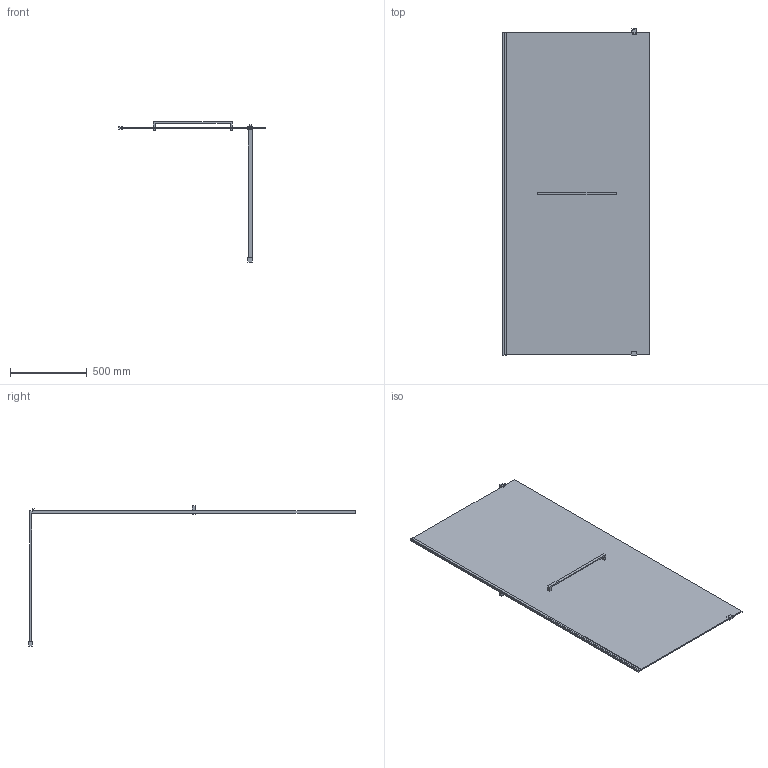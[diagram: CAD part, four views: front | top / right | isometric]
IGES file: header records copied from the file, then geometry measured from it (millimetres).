
Start section: SolidWorks IGES file using analytic representation for surfaces
Global section: file name: D:\Users\M.Szymanski\Desktop\Kabiny\PIII_ALTIIa\03. do przegrania\PIII_ALTIIa_100_z_relingiem_K3D.IGS; native system: SolidWorks 2011; preprocessor: SolidWorks 2011; author: M.Szymanski; date: 181005.104404; units: millimetre
Bounding box: 958.45 x 2128 x 914.13 mm (x, y, z)
Surface area: 4358230.1 mm2 (no closed solid volume)
Topology: 0 solids, 0 shells, 62 faces, 444 edges, 592 vertices
Faces by surface type: bspline 62
